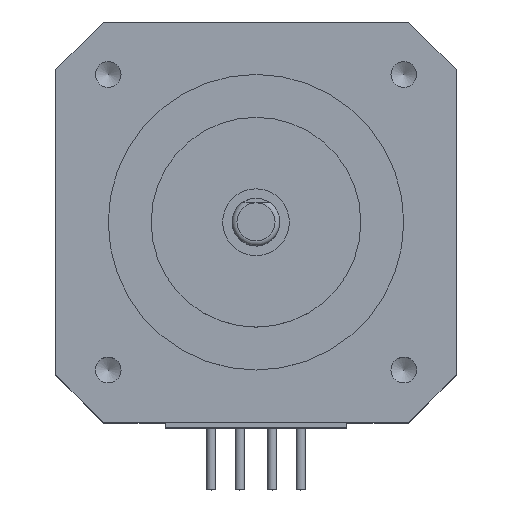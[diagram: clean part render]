
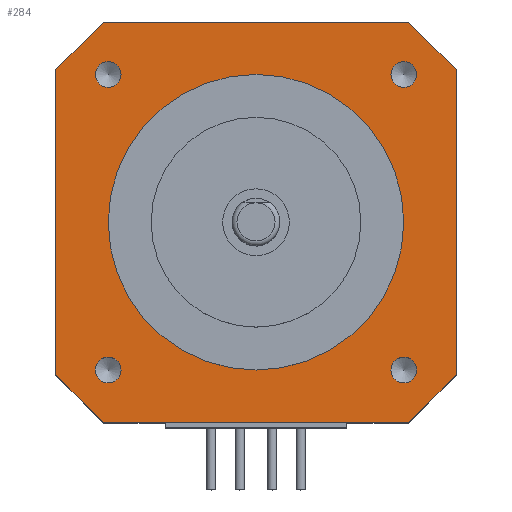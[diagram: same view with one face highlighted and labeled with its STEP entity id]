
A CAD part, top view. The second image highlights one B-rep face of the part: STEP entity #284.
In plain terms, the highlighted planar face has unit normal (0, 0, 1).
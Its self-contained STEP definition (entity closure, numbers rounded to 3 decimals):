
#153=FACE_BOUND('',#638,.T.);
#154=FACE_BOUND('',#639,.T.);
#155=FACE_BOUND('',#640,.T.);
#156=FACE_BOUND('',#641,.T.);
#157=FACE_BOUND('',#642,.T.);
#158=FACE_BOUND('',#643,.T.);
#241=CIRCLE('',#2388,1.35);
#242=CIRCLE('',#2389,1.35);
#243=CIRCLE('',#2390,1.35);
#244=CIRCLE('',#2391,1.35);
#245=CIRCLE('',#2392,15.5);
#284=ADVANCED_FACE('',(#153,#154,#155,#156,#157,#158),#420,.F.);
#420=PLANE('',#2393);
#638=EDGE_LOOP('',(#886));
#639=EDGE_LOOP('',(#887));
#640=EDGE_LOOP('',(#888));
#641=EDGE_LOOP('',(#889));
#642=EDGE_LOOP('',(#890,#891,#892,#893,#894,#895,#896,#897));
#643=EDGE_LOOP('',(#898));
#886=ORIENTED_EDGE('',*,*,#1669,.T.);
#887=ORIENTED_EDGE('',*,*,#1670,.T.);
#888=ORIENTED_EDGE('',*,*,#1671,.T.);
#889=ORIENTED_EDGE('',*,*,#1672,.T.);
#890=ORIENTED_EDGE('',*,*,#1673,.F.);
#891=ORIENTED_EDGE('',*,*,#1674,.T.);
#892=ORIENTED_EDGE('',*,*,#1675,.F.);
#893=ORIENTED_EDGE('',*,*,#1676,.T.);
#894=ORIENTED_EDGE('',*,*,#1677,.F.);
#895=ORIENTED_EDGE('',*,*,#1678,.T.);
#896=ORIENTED_EDGE('',*,*,#1679,.F.);
#897=ORIENTED_EDGE('',*,*,#1680,.T.);
#898=ORIENTED_EDGE('',*,*,#1681,.T.);
#1453=VERTEX_POINT('',#3333);
#1454=VERTEX_POINT('',#3335);
#1455=VERTEX_POINT('',#3337);
#1456=VERTEX_POINT('',#3339);
#1457=VERTEX_POINT('',#3341);
#1458=VERTEX_POINT('',#3342);
#1459=VERTEX_POINT('',#3344);
#1460=VERTEX_POINT('',#3346);
#1461=VERTEX_POINT('',#3348);
#1462=VERTEX_POINT('',#3350);
#1463=VERTEX_POINT('',#3352);
#1464=VERTEX_POINT('',#3354);
#1465=VERTEX_POINT('',#3357);
#1669=EDGE_CURVE('',#1453,#1453,#241,.T.);
#1670=EDGE_CURVE('',#1454,#1454,#242,.T.);
#1671=EDGE_CURVE('',#1455,#1455,#243,.T.);
#1672=EDGE_CURVE('',#1456,#1456,#244,.T.);
#1673=EDGE_CURVE('',#1457,#1458,#1944,.T.);
#1674=EDGE_CURVE('',#1457,#1459,#1945,.T.);
#1675=EDGE_CURVE('',#1460,#1459,#1946,.T.);
#1676=EDGE_CURVE('',#1460,#1461,#1947,.T.);
#1677=EDGE_CURVE('',#1462,#1461,#1948,.T.);
#1678=EDGE_CURVE('',#1462,#1463,#1949,.T.);
#1679=EDGE_CURVE('',#1464,#1463,#1950,.T.);
#1680=EDGE_CURVE('',#1464,#1458,#1951,.T.);
#1681=EDGE_CURVE('',#1465,#1465,#245,.T.);
#1944=LINE('',#3340,#2187);
#1945=LINE('',#3343,#2188);
#1946=LINE('',#3345,#2189);
#1947=LINE('',#3347,#2190);
#1948=LINE('',#3349,#2191);
#1949=LINE('',#3351,#2192);
#1950=LINE('',#3353,#2193);
#1951=LINE('',#3355,#2194);
#2187=VECTOR('',#2669,1.);
#2188=VECTOR('',#2670,1.);
#2189=VECTOR('',#2671,1.);
#2190=VECTOR('',#2672,1.);
#2191=VECTOR('',#2673,1.);
#2192=VECTOR('',#2674,1.);
#2193=VECTOR('',#2675,1.);
#2194=VECTOR('',#2676,1.);
#2388=AXIS2_PLACEMENT_3D('',#3332,#2661,#2662);
#2389=AXIS2_PLACEMENT_3D('',#3334,#2663,#2664);
#2390=AXIS2_PLACEMENT_3D('',#3336,#2665,#2666);
#2391=AXIS2_PLACEMENT_3D('',#3338,#2667,#2668);
#2392=AXIS2_PLACEMENT_3D('',#3356,#2677,#2678);
#2393=AXIS2_PLACEMENT_3D('',#3358,#2679,#2680);
#2661=DIRECTION('',(0.,0.,-1.));
#2662=DIRECTION('',(-1.,0.,0.));
#2663=DIRECTION('',(0.,0.,-1.));
#2664=DIRECTION('',(-1.,0.,0.));
#2665=DIRECTION('',(0.,0.,-1.));
#2666=DIRECTION('',(-1.,0.,0.));
#2667=DIRECTION('',(0.,0.,-1.));
#2668=DIRECTION('',(-1.,0.,0.));
#2669=DIRECTION('',(1.,0.,0.));
#2670=DIRECTION('',(-0.707,-0.707,0.));
#2671=DIRECTION('',(0.,1.,0.));
#2672=DIRECTION('',(0.707,-0.707,0.));
#2673=DIRECTION('',(-1.,0.,0.));
#2674=DIRECTION('',(0.707,0.707,0.));
#2675=DIRECTION('',(0.,-1.,0.));
#2676=DIRECTION('',(-0.707,0.707,0.));
#2677=DIRECTION('',(0.,0.,-1.));
#2678=DIRECTION('',(1.,0.,0.));
#2679=DIRECTION('',(0.,0.,-1.));
#2680=DIRECTION('',(-1.,0.,0.));
#3332=CARTESIAN_POINT('',(15.5,-15.5,0.));
#3333=CARTESIAN_POINT('',(14.15,-15.5,0.));
#3334=CARTESIAN_POINT('',(15.5,15.5,0.));
#3335=CARTESIAN_POINT('',(14.15,15.5,0.));
#3336=CARTESIAN_POINT('',(-15.5,15.5,0.));
#3337=CARTESIAN_POINT('',(-16.85,15.5,0.));
#3338=CARTESIAN_POINT('',(-15.5,-15.5,0.));
#3339=CARTESIAN_POINT('',(-16.85,-15.5,0.));
#3340=CARTESIAN_POINT('',(-21.,21.,0.));
#3341=CARTESIAN_POINT('',(-16.,21.,0.));
#3342=CARTESIAN_POINT('',(16.,21.,0.));
#3343=CARTESIAN_POINT('',(-16.,21.,0.));
#3344=CARTESIAN_POINT('',(-21.,16.,0.));
#3345=CARTESIAN_POINT('',(-21.,-21.,0.));
#3346=CARTESIAN_POINT('',(-21.,-16.,0.));
#3347=CARTESIAN_POINT('',(-21.,-16.,0.));
#3348=CARTESIAN_POINT('',(-16.,-21.,0.));
#3349=CARTESIAN_POINT('',(21.,-21.,0.));
#3350=CARTESIAN_POINT('',(16.,-21.,0.));
#3351=CARTESIAN_POINT('',(16.,-21.,0.));
#3352=CARTESIAN_POINT('',(21.,-16.,0.));
#3353=CARTESIAN_POINT('',(21.,21.,0.));
#3354=CARTESIAN_POINT('',(21.,16.,0.));
#3355=CARTESIAN_POINT('',(21.,16.,0.));
#3356=CARTESIAN_POINT('',(0.,0.,0.));
#3357=CARTESIAN_POINT('',(15.5,0.,0.));
#3358=CARTESIAN_POINT('',(-21.,-21.,0.));
